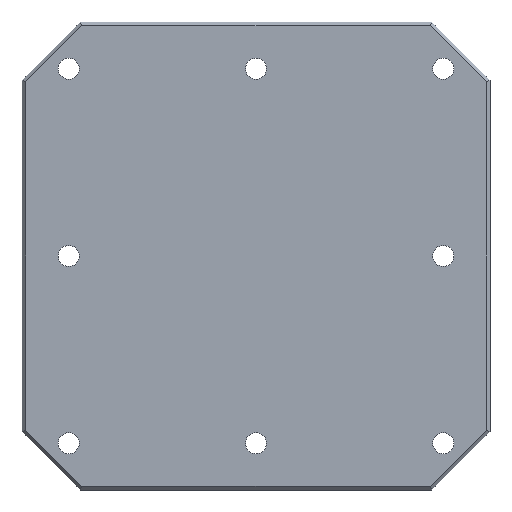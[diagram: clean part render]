
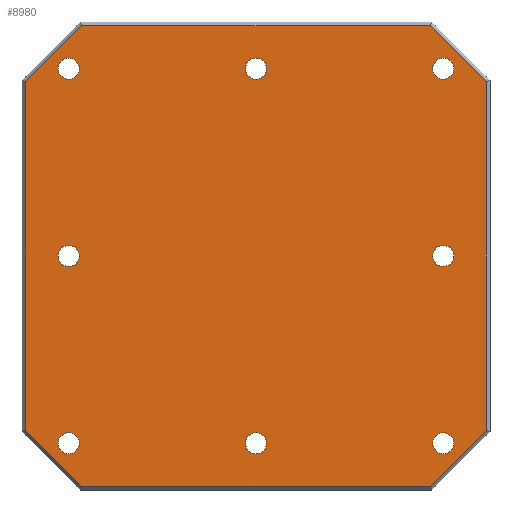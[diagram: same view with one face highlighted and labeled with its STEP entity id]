
A CAD part, front view. The second image highlights one B-rep face of the part: STEP entity #8980.
In plain terms, the highlighted planar face has unit normal (0, -1, 0).
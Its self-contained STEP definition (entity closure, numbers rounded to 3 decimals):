
#2125=CARTESIAN_POINT('',(-160.,-30.,0.));
#2126=DIRECTION('',(0.,1.,0.));
#2127=DIRECTION('',(1.,0.,0.));
#2128=AXIS2_PLACEMENT_3D('',#2125,#2126,#2127);
#2130=CARTESIAN_POINT('',(-160.,-30.,0.));
#2131=DIRECTION('',(0.,1.,0.));
#2132=DIRECTION('',(-1.,0.,0.));
#2133=AXIS2_PLACEMENT_3D('',#2130,#2131,#2132);
#2135=CARTESIAN_POINT('',(160.,-30.,0.));
#2136=DIRECTION('',(0.,1.,0.));
#2137=DIRECTION('',(1.,0.,0.));
#2138=AXIS2_PLACEMENT_3D('',#2135,#2136,#2137);
#2140=CARTESIAN_POINT('',(160.,-30.,0.));
#2141=DIRECTION('',(0.,1.,0.));
#2142=DIRECTION('',(-1.,0.,0.));
#2143=AXIS2_PLACEMENT_3D('',#2140,#2141,#2142);
#2145=CARTESIAN_POINT('',(-160.,-30.,-160.));
#2146=DIRECTION('',(0.,-1.,0.));
#2147=DIRECTION('',(1.,0.,0.));
#2148=AXIS2_PLACEMENT_3D('',#2145,#2146,#2147);
#2150=CARTESIAN_POINT('',(-160.,-30.,-160.));
#2151=DIRECTION('',(0.,-1.,0.));
#2152=DIRECTION('',(-1.,0.,0.));
#2153=AXIS2_PLACEMENT_3D('',#2150,#2151,#2152);
#2155=CARTESIAN_POINT('',(0.,-30.,-160.));
#2156=DIRECTION('',(0.,-1.,0.));
#2157=DIRECTION('',(1.,0.,0.));
#2158=AXIS2_PLACEMENT_3D('',#2155,#2156,#2157);
#2160=CARTESIAN_POINT('',(0.,-30.,-160.));
#2161=DIRECTION('',(0.,-1.,0.));
#2162=DIRECTION('',(-1.,0.,0.));
#2163=AXIS2_PLACEMENT_3D('',#2160,#2161,#2162);
#2165=CARTESIAN_POINT('',(160.,-30.,-160.));
#2166=DIRECTION('',(0.,-1.,0.));
#2167=DIRECTION('',(1.,0.,0.));
#2168=AXIS2_PLACEMENT_3D('',#2165,#2166,#2167);
#2170=CARTESIAN_POINT('',(160.,-30.,-160.));
#2171=DIRECTION('',(0.,-1.,0.));
#2172=DIRECTION('',(-1.,0.,0.));
#2173=AXIS2_PLACEMENT_3D('',#2170,#2171,#2172);
#2175=CARTESIAN_POINT('',(160.,-30.,160.));
#2176=DIRECTION('',(0.,1.,0.));
#2177=DIRECTION('',(1.,0.,0.));
#2178=AXIS2_PLACEMENT_3D('',#2175,#2176,#2177);
#2180=CARTESIAN_POINT('',(160.,-30.,160.));
#2181=DIRECTION('',(0.,1.,0.));
#2182=DIRECTION('',(-1.,0.,0.));
#2183=AXIS2_PLACEMENT_3D('',#2180,#2181,#2182);
#2185=CARTESIAN_POINT('',(0.,-30.,160.));
#2186=DIRECTION('',(0.,1.,0.));
#2187=DIRECTION('',(1.,0.,0.));
#2188=AXIS2_PLACEMENT_3D('',#2185,#2186,#2187);
#2190=CARTESIAN_POINT('',(0.,-30.,160.));
#2191=DIRECTION('',(0.,1.,0.));
#2192=DIRECTION('',(-1.,0.,0.));
#2193=AXIS2_PLACEMENT_3D('',#2190,#2191,#2192);
#2195=CARTESIAN_POINT('',(-160.,-30.,160.));
#2196=DIRECTION('',(0.,1.,0.));
#2197=DIRECTION('',(1.,0.,0.));
#2198=AXIS2_PLACEMENT_3D('',#2195,#2196,#2197);
#2200=CARTESIAN_POINT('',(-160.,-30.,160.));
#2201=DIRECTION('',(0.,1.,0.));
#2202=DIRECTION('',(-1.,0.,0.));
#2203=AXIS2_PLACEMENT_3D('',#2200,#2201,#2202);
#2205=DIRECTION('',(0.,0.,-1.));
#2206=VECTOR('',#2205,297.515);
#2207=CARTESIAN_POINT('',(-197.,-30.,148.757));
#2208=LINE('',#2207,#2206);
#2209=DIRECTION('',(-0.707,0.,-0.707));
#2210=VECTOR('',#2209,68.225);
#2211=CARTESIAN_POINT('',(-148.757,-30.,197.));
#2212=LINE('',#2211,#2210);
#2213=DIRECTION('',(-1.,0.,0.));
#2214=VECTOR('',#2213,297.515);
#2215=CARTESIAN_POINT('',(148.757,-30.,197.));
#2216=LINE('',#2215,#2214);
#2217=DIRECTION('',(-0.707,0.,0.707));
#2218=VECTOR('',#2217,68.225);
#2219=CARTESIAN_POINT('',(197.,-30.,148.757));
#2220=LINE('',#2219,#2218);
#2221=DIRECTION('',(0.,0.,1.));
#2222=VECTOR('',#2221,297.515);
#2223=CARTESIAN_POINT('',(197.,-30.,-148.757));
#2224=LINE('',#2223,#2222);
#2225=DIRECTION('',(0.707,0.,0.707));
#2226=VECTOR('',#2225,68.225);
#2227=CARTESIAN_POINT('',(148.757,-30.,-197.));
#2228=LINE('',#2227,#2226);
#2229=DIRECTION('',(1.,0.,0.));
#2230=VECTOR('',#2229,297.515);
#2231=CARTESIAN_POINT('',(-148.757,-30.,-197.));
#2232=LINE('',#2231,#2230);
#2233=DIRECTION('',(0.707,0.,-0.707));
#2234=VECTOR('',#2233,68.225);
#2235=CARTESIAN_POINT('',(-197.,-30.,-148.757));
#2236=LINE('',#2235,#2234);
#5325=CARTESIAN_POINT('',(169.,-30.,160.));
#5326=CARTESIAN_POINT('',(151.,-30.,160.));
#5327=VERTEX_POINT('',#5325);
#5328=VERTEX_POINT('',#5326);
#5365=CARTESIAN_POINT('',(9.,-30.,160.));
#5366=CARTESIAN_POINT('',(-9.,-30.,160.));
#5367=VERTEX_POINT('',#5365);
#5368=VERTEX_POINT('',#5366);
#5413=CARTESIAN_POINT('',(-151.,-30.,160.));
#5414=CARTESIAN_POINT('',(-169.,-30.,160.));
#5415=VERTEX_POINT('',#5413);
#5416=VERTEX_POINT('',#5414);
#5453=CARTESIAN_POINT('',(169.,-30.,-160.));
#5454=VERTEX_POINT('',#5453);
#5457=CARTESIAN_POINT('',(151.,-30.,-160.));
#5458=VERTEX_POINT('',#5457);
#5469=CARTESIAN_POINT('',(9.,-30.,-160.));
#5470=VERTEX_POINT('',#5469);
#5473=CARTESIAN_POINT('',(-9.,-30.,-160.));
#5474=VERTEX_POINT('',#5473);
#5485=CARTESIAN_POINT('',(-151.,-30.,-160.));
#5486=VERTEX_POINT('',#5485);
#5489=CARTESIAN_POINT('',(-169.,-30.,-160.));
#5490=VERTEX_POINT('',#5489);
#5589=CARTESIAN_POINT('',(169.,-30.,0.));
#5590=VERTEX_POINT('',#5589);
#5591=CARTESIAN_POINT('',(151.,-30.,0.));
#5592=VERTEX_POINT('',#5591);
#5597=CARTESIAN_POINT('',(-151.,-30.,0.));
#5598=VERTEX_POINT('',#5597);
#5599=CARTESIAN_POINT('',(-169.,-30.,0.));
#5600=VERTEX_POINT('',#5599);
#5703=CARTESIAN_POINT('',(-197.,-30.,148.757));
#5704=CARTESIAN_POINT('',(-197.,-30.,-148.757));
#5705=VERTEX_POINT('',#5703);
#5706=VERTEX_POINT('',#5704);
#5709=CARTESIAN_POINT('',(-148.757,-30.,197.));
#5710=VERTEX_POINT('',#5709);
#5713=CARTESIAN_POINT('',(148.757,-30.,197.));
#5714=VERTEX_POINT('',#5713);
#5715=CARTESIAN_POINT('',(197.,-30.,148.757));
#5716=VERTEX_POINT('',#5715);
#5721=CARTESIAN_POINT('',(197.,-30.,-148.757));
#5722=VERTEX_POINT('',#5721);
#5723=CARTESIAN_POINT('',(148.757,-30.,-197.));
#5724=VERTEX_POINT('',#5723);
#5729=CARTESIAN_POINT('',(-148.757,-30.,-197.));
#5730=VERTEX_POINT('',#5729);
#8913=CARTESIAN_POINT('',(0.,-30.,0.));
#8914=DIRECTION('',(0.,1.,0.));
#8915=DIRECTION('',(1.,0.,0.));
#8916=AXIS2_PLACEMENT_3D('',#8913,#8914,#8915);
#8917=PLANE('',#8916);
#8919=ORIENTED_EDGE('',*,*,#8918,.F.);
#8921=ORIENTED_EDGE('',*,*,#8920,.F.);
#8923=ORIENTED_EDGE('',*,*,#8922,.F.);
#8925=ORIENTED_EDGE('',*,*,#8924,.F.);
#8927=ORIENTED_EDGE('',*,*,#8926,.F.);
#8929=ORIENTED_EDGE('',*,*,#8928,.F.);
#8931=ORIENTED_EDGE('',*,*,#8930,.F.);
#8933=ORIENTED_EDGE('',*,*,#8932,.F.);
#8934=EDGE_LOOP('',(#8919,#8921,#8923,#8925,#8927,#8929,#8931,#8933));
#8935=FACE_OUTER_BOUND('',#8934,.F.);
#8937=ORIENTED_EDGE('',*,*,#8936,.F.);
#8939=ORIENTED_EDGE('',*,*,#8938,.F.);
#8940=EDGE_LOOP('',(#8937,#8939));
#8941=FACE_BOUND('',#8940,.F.);
#8942=ORIENTED_EDGE('',*,*,#5884,.T.);
#8943=ORIENTED_EDGE('',*,*,#5866,.T.);
#8944=EDGE_LOOP('',(#8942,#8943));
#8945=FACE_BOUND('',#8944,.F.);
#8946=ORIENTED_EDGE('',*,*,#8908,.T.);
#8947=ORIENTED_EDGE('',*,*,#8892,.T.);
#8948=EDGE_LOOP('',(#8946,#8947));
#8949=FACE_BOUND('',#8948,.F.);
#8951=ORIENTED_EDGE('',*,*,#8950,.T.);
#8953=ORIENTED_EDGE('',*,*,#8952,.T.);
#8954=EDGE_LOOP('',(#8951,#8953));
#8955=FACE_BOUND('',#8954,.F.);
#8957=ORIENTED_EDGE('',*,*,#8956,.F.);
#8959=ORIENTED_EDGE('',*,*,#8958,.F.);
#8960=EDGE_LOOP('',(#8957,#8959));
#8961=FACE_BOUND('',#8960,.F.);
#8963=ORIENTED_EDGE('',*,*,#8962,.F.);
#8965=ORIENTED_EDGE('',*,*,#8964,.F.);
#8966=EDGE_LOOP('',(#8963,#8965));
#8967=FACE_BOUND('',#8966,.F.);
#8969=ORIENTED_EDGE('',*,*,#8968,.F.);
#8971=ORIENTED_EDGE('',*,*,#8970,.F.);
#8972=EDGE_LOOP('',(#8969,#8971));
#8973=FACE_BOUND('',#8972,.F.);
#8975=ORIENTED_EDGE('',*,*,#8974,.F.);
#8977=ORIENTED_EDGE('',*,*,#8976,.F.);
#8978=EDGE_LOOP('',(#8975,#8977));
#8979=FACE_BOUND('',#8978,.F.);
#8980=ADVANCED_FACE('',(#8935,#8941,#8945,#8949,#8955,#8961,#8967,#8973,#8979),
#8917,.F.);
#2129=CIRCLE('',#2128,9.);
#2134=CIRCLE('',#2133,9.);
#2139=CIRCLE('',#2138,9.);
#2144=CIRCLE('',#2143,9.);
#2149=CIRCLE('',#2148,9.);
#2154=CIRCLE('',#2153,9.);
#2159=CIRCLE('',#2158,9.);
#2164=CIRCLE('',#2163,9.);
#2169=CIRCLE('',#2168,9.);
#2174=CIRCLE('',#2173,9.);
#2179=CIRCLE('',#2178,9.);
#2184=CIRCLE('',#2183,9.);
#2189=CIRCLE('',#2188,9.);
#2194=CIRCLE('',#2193,9.);
#2199=CIRCLE('',#2198,9.);
#2204=CIRCLE('',#2203,9.);
#5866=EDGE_CURVE('',#5490,#5486,#2154,.T.);
#5884=EDGE_CURVE('',#5486,#5490,#2149,.T.);
#8892=EDGE_CURVE('',#5474,#5470,#2164,.T.);
#8908=EDGE_CURVE('',#5470,#5474,#2159,.T.);
#8918=EDGE_CURVE('',#5705,#5706,#2208,.T.);
#8920=EDGE_CURVE('',#5710,#5705,#2212,.T.);
#8922=EDGE_CURVE('',#5714,#5710,#2216,.T.);
#8924=EDGE_CURVE('',#5716,#5714,#2220,.T.);
#8926=EDGE_CURVE('',#5722,#5716,#2224,.T.);
#8928=EDGE_CURVE('',#5724,#5722,#2228,.T.);
#8930=EDGE_CURVE('',#5730,#5724,#2232,.T.);
#8932=EDGE_CURVE('',#5706,#5730,#2236,.T.);
#8936=EDGE_CURVE('',#5590,#5592,#2139,.T.);
#8938=EDGE_CURVE('',#5592,#5590,#2144,.T.);
#8950=EDGE_CURVE('',#5454,#5458,#2169,.T.);
#8952=EDGE_CURVE('',#5458,#5454,#2174,.T.);
#8956=EDGE_CURVE('',#5327,#5328,#2179,.T.);
#8958=EDGE_CURVE('',#5328,#5327,#2184,.T.);
#8962=EDGE_CURVE('',#5367,#5368,#2189,.T.);
#8964=EDGE_CURVE('',#5368,#5367,#2194,.T.);
#8968=EDGE_CURVE('',#5415,#5416,#2199,.T.);
#8970=EDGE_CURVE('',#5416,#5415,#2204,.T.);
#8974=EDGE_CURVE('',#5598,#5600,#2129,.T.);
#8976=EDGE_CURVE('',#5600,#5598,#2134,.T.);
